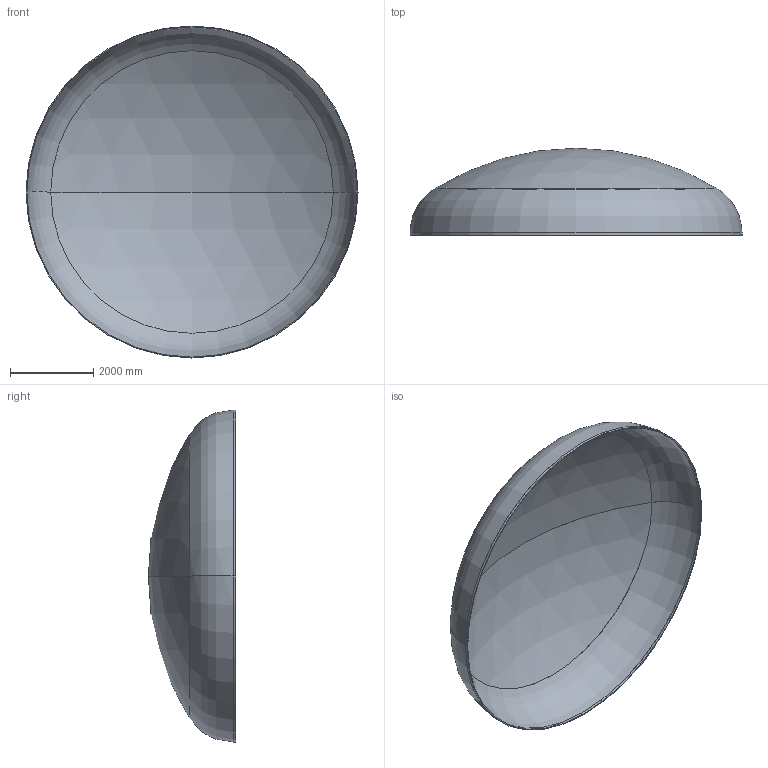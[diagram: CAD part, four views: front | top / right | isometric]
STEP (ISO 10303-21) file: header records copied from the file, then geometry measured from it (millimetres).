
FILE_DESCRIPTION (( 'STEP AP203' ), '1' );
FILE_NAME ('DIN 28013 Korbbogenform_-_Boden DIN 28013 - 8000 x 60 - I - s=20.step', '2016-07-04T10:59:14', ( '' ), ( '' ), 'SwSTEP 2.0', 'SolidWorks 2013', '' );
FILE_SCHEMA (( 'CONFIG_CONTROL_DESIGN' ));
Length unit declared in the file: millimetre
Products named in the file (1): DIN 28013 Korbbogenform_-_Boden DIN 28013 - 8000 x 60 - I - s=20
Bounding box: 8000 x 2102.06 x 8000 mm (x, y, z)
Volume: 1417503184.1 mm3; surface area: 142252496.1 mm2
Topology: 1 solids, 1 shells, 13 faces, 24 edges, 14 vertices
Faces by surface type: torus 4, cylinder 4, sphere 4, plane 1
Entity records: 407 total; most frequent: DIRECTION 72, CARTESIAN_POINT 52, ORIENTED_EDGE 48, AXIS2_PLACEMENT_3D 34, EDGE_CURVE 24, CIRCLE 20, EDGE_LOOP 14, VERTEX_POINT 14
